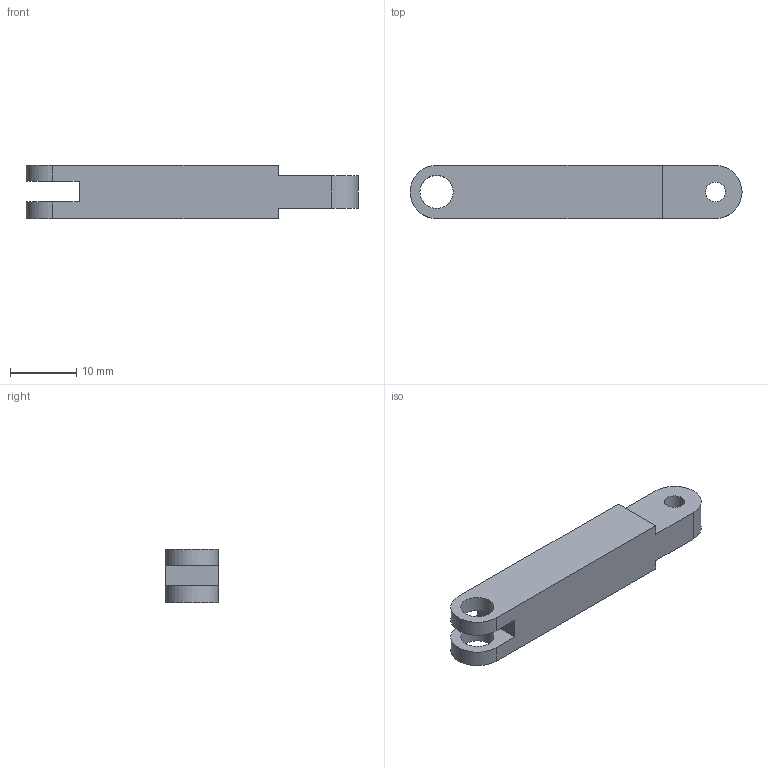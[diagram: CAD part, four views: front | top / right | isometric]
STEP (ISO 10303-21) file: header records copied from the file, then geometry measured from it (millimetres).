
FILE_DESCRIPTION(/* description */ ('Alibre Inc.'),/* implementation_level */ '2;1');
FILE_NAME(/* name */ 'export-82DE4A89-964E-4F15-93B9-6110CCD6B0EA',/* time_stamp */ '2023-05-25T19:44:02+01:00',/* author */ (''),/* organization */ (''),/* preprocessor_version */ 'ST-DEVELOPER v17',/* originating_system */ 'Alibre',/* authorisation */ '');
FILE_SCHEMA (('AUTOMOTIVE_DESIGN'));
Length unit declared in the file: millimetre
Bounding box: 50 x 8 x 8 mm (x, y, z)
Volume: 2505.9 mm3; surface area: 1687.6 mm2
Topology: 1 solids, 1 shells, 17 faces, 45 edges, 30 vertices
Faces by surface type: plane 11, cylinder 6
Full cylindrical faces by diameter (mm): 3 x1, 5 x2
Entity records: 514 total; most frequent: CARTESIAN_POINT 85, ORIENTED_EDGE 84, DIRECTION 71, EDGE_CURVE 42, VERTEX_POINT 30, VECTOR 28, LINE 28, AXIS2_PLACEMENT_3D 27
